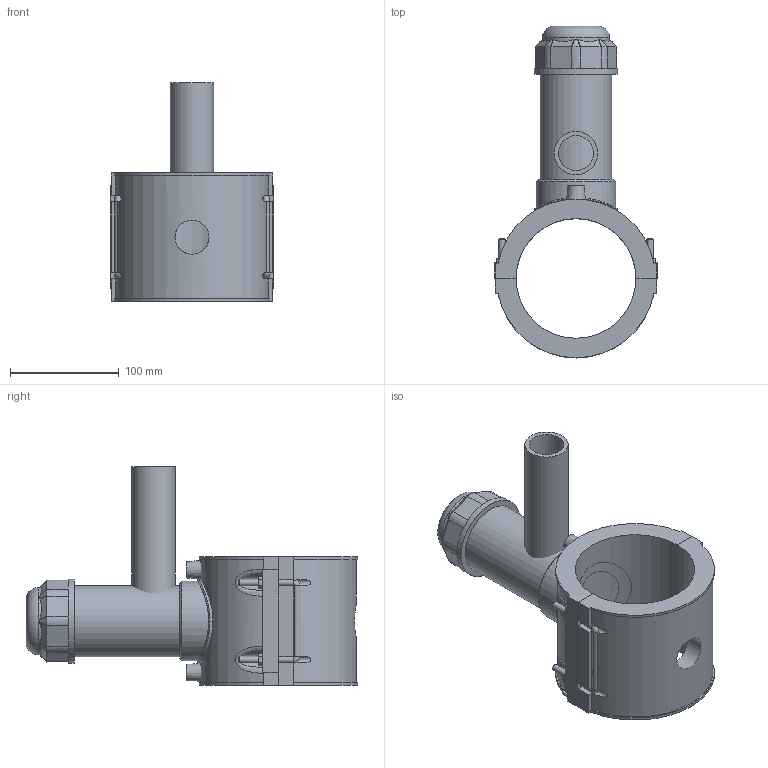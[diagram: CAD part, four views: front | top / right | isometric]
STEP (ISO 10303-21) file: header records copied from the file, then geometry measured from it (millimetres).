
FILE_DESCRIPTION(/* description */ (''),/* implementation_level */ '2;1');
FILE_NAME(/* name */ 'C:\Dropbox\KIMPROJECTS-Inventor 2019\99-16-3568-Processing\ElectroFusion Fittings\4963P4\stp\4963P4110040.stp',/* time_stamp */ '2022-03-17T11:27:54+02:00',/* author */ ('KIM'),/* organization */ (''),/* preprocessor_version */ 'ST-DEVELOPER v17.2',/* originating_system */ 'Autodesk Inventor 2019',/* authorisation */ '');
FILE_SCHEMA (('AUTOMOTIVE_DESIGN { 1 0 10303 214 3 1 1 }'));
Length unit declared in the file: millimetre
Products named in the file (1): 4963P4110040
Bounding box: 150 x 304.93 x 201 mm (x, y, z)
Volume: 1210109.9 mm3; surface area: 232269.5 mm2
Topology: 3 solids, 3 shells, 218 faces, 563 edges, 364 vertices
Faces by surface type: plane 125, cylinder 52, bspline 25, cone 15, torus 1
Full cylindrical faces by diameter (mm): 4 x2, 6 x8, 10 x2, 31.36 x1, 32 x1, 40 x1, 53.9 x1, 61.6 x1, 65.45 x1, 73.15 x1, 77 x2
Entity records: 8231 total; most frequent: CARTESIAN_POINT 2967, ORIENTED_EDGE 1126, DIRECTION 1011, EDGE_CURVE 563, VERTEX_POINT 364, AXIS2_PLACEMENT_3D 347, LINE 317, VECTOR 317
